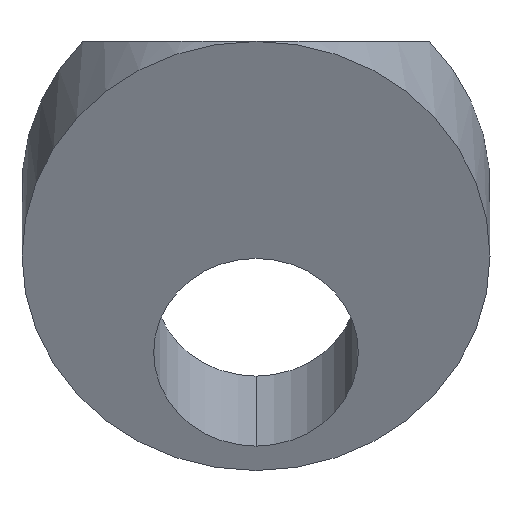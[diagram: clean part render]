
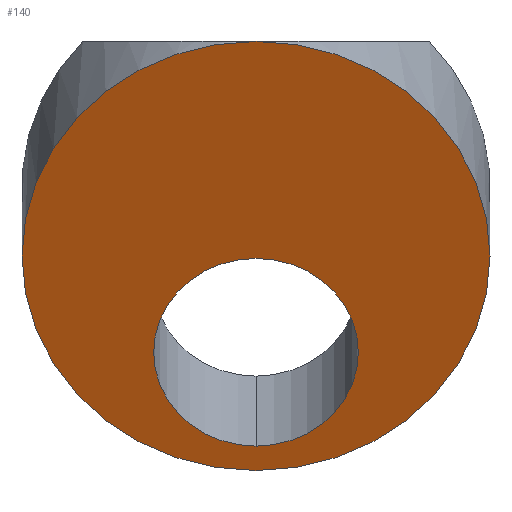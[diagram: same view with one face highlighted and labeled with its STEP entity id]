
A CAD part, top view. The second image highlights one B-rep face of the part: STEP entity #140.
In plain terms, the highlighted planar face has unit normal (0, -0.401, 0.916).
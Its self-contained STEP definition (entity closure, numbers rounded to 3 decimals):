
#68 = VERTEX_POINT( '', #172 );
#76 = EDGE_CURVE( '', #68, #150, #180, .T. );
#82 = VERTEX_POINT( '', #187 );
#86 = EDGE_CURVE( '', #82, #92, #191, .T. );
#92 = VERTEX_POINT( '', #200 );
#106 = EDGE_CURVE( '', #150, #68, #215, .T. );
#122 = EDGE_CURVE( '', #92, #82, #231, .T. );
#140 = ADVANCED_FACE( '', ( #252, #253 ), #254, .T. );
#150 = VERTEX_POINT( '', #264 );
#172 = CARTESIAN_POINT( '', ( 0., -29.319, -6.273 ) );
#180 = CIRCLE( '', #291, 16. );
#187 = CARTESIAN_POINT( '', ( 0., -27.652, -5.544 ) );
#191 = CIRCLE( '', #304, 7. );
#200 = CARTESIAN_POINT( '', ( 0., -14.825, 0.065 ) );
#215 = CIRCLE( '', #334, 16. );
#231 = CIRCLE( '', #354, 7. );
#252 = FACE_BOUND( '', #378, .T. );
#253 = FACE_OUTER_BOUND( '', #379, .T. );
#254 = PLANE( '', #380 );
#264 = CARTESIAN_POINT( '', ( 0., 0., 6.549 ) );
#291 = AXIS2_PLACEMENT_3D( '', #409, #410, #411 );
#304 = AXIS2_PLACEMENT_3D( '', #423, #424, #425 );
#334 = AXIS2_PLACEMENT_3D( '', #454, #455, #456 );
#354 = AXIS2_PLACEMENT_3D( '', #470, #471, #472 );
#378 = EDGE_LOOP( '', ( #502, #503 ) );
#379 = EDGE_LOOP( '', ( #504, #505 ) );
#380 = AXIS2_PLACEMENT_3D( '', #506, #507, #508 );
#409 = CARTESIAN_POINT( '', ( 0., -14.659, 0.138 ) );
#410 = DIRECTION( '', ( 0., -0.401, 0.916 ) );
#411 = DIRECTION( '', ( 0., 0.916, 0.401 ) );
#423 = CARTESIAN_POINT( '', ( 0., -21.239, -2.739 ) );
#424 = DIRECTION( '', ( 0., 0.401, -0.916 ) );
#425 = DIRECTION( '', ( 0., 0.916, 0.401 ) );
#454 = CARTESIAN_POINT( '', ( 0., -14.659, 0.138 ) );
#455 = DIRECTION( '', ( 0., -0.401, 0.916 ) );
#456 = DIRECTION( '', ( 0., 0.916, 0.401 ) );
#470 = CARTESIAN_POINT( '', ( 0., -21.239, -2.739 ) );
#471 = DIRECTION( '', ( 0., 0.401, -0.916 ) );
#472 = DIRECTION( '', ( 0., 0.916, 0.401 ) );
#502 = ORIENTED_EDGE( '', *, *, #86, .T. );
#503 = ORIENTED_EDGE( '', *, *, #122, .T. );
#504 = ORIENTED_EDGE( '', *, *, #106, .T. );
#505 = ORIENTED_EDGE( '', *, *, #76, .T. );
#506 = CARTESIAN_POINT( '', ( 0., -7.33, 3.343 ) );
#507 = DIRECTION( '', ( 0., -0.401, 0.916 ) );
#508 = DIRECTION( '', ( 0., 0.916, 0.401 ) );
